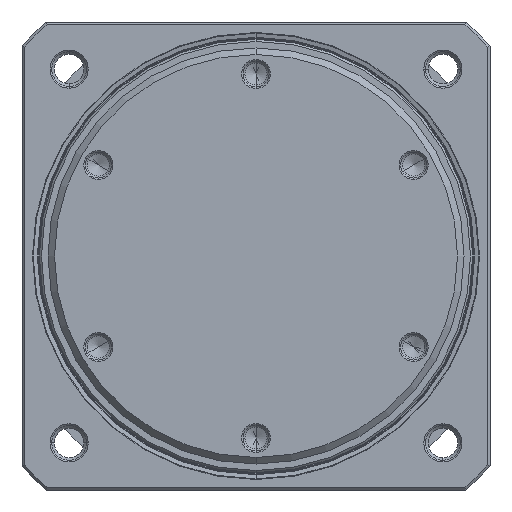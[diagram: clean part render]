
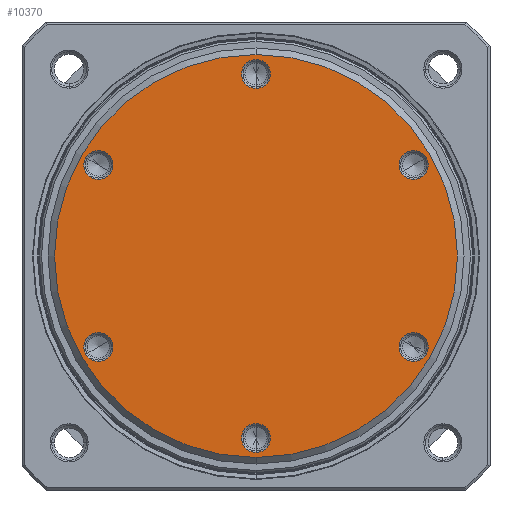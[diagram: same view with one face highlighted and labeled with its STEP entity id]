
A CAD part, left-side view. The second image highlights one B-rep face of the part: STEP entity #10370.
In plain terms, the highlighted planar face has unit normal (-1, 0, 0).
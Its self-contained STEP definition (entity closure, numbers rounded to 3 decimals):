
#9715=CARTESIAN_POINT('',(0.,0.,
0.));
#9716=DIRECTION('',(-1.,0.,0.));
#9717=DIRECTION('',(0.,1.,0.));
#9718=AXIS2_PLACEMENT_3D('',#9715,#9716,#9717);
#9720=CARTESIAN_POINT('',(0.,0.,
0.));
#9721=DIRECTION('',(-1.,0.,0.));
#9722=DIRECTION('',(0.,-1.,0.));
#9723=AXIS2_PLACEMENT_3D('',#9720,#9721,#9722);
#9725=CARTESIAN_POINT('',(0.,42.,0.));
#9726=DIRECTION('',(1.,0.,0.));
#9727=DIRECTION('',(0.,-1.,0.));
#9728=AXIS2_PLACEMENT_3D('',#9725,#9726,#9727);
#9730=CARTESIAN_POINT('',(0.,42.,0.));
#9731=DIRECTION('',(1.,0.,0.));
#9732=DIRECTION('',(0.,1.,0.));
#9733=AXIS2_PLACEMENT_3D('',#9730,#9731,#9732);
#9735=CARTESIAN_POINT('',(0.,21.,36.373));
#9736=DIRECTION('',(1.,0.,0.));
#9737=DIRECTION('',(0.,-0.5,-0.866));
#9738=AXIS2_PLACEMENT_3D('',#9735,#9736,#9737);
#9740=CARTESIAN_POINT('',(0.,21.,36.373));
#9741=DIRECTION('',(1.,0.,0.));
#9742=DIRECTION('',(0.,0.5,0.866));
#9743=AXIS2_PLACEMENT_3D('',#9740,#9741,#9742);
#9745=CARTESIAN_POINT('',(0.,-21.,36.373));
#9746=DIRECTION('',(1.,0.,0.));
#9747=DIRECTION('',(0.,0.5,-0.866));
#9748=AXIS2_PLACEMENT_3D('',#9745,#9746,#9747);
#9750=CARTESIAN_POINT('',(0.,-21.,36.373));
#9751=DIRECTION('',(1.,0.,0.));
#9752=DIRECTION('',(0.,-0.5,0.866));
#9753=AXIS2_PLACEMENT_3D('',#9750,#9751,#9752);
#9755=CARTESIAN_POINT('',(0.,-42.,0.));
#9756=DIRECTION('',(1.,0.,0.));
#9757=DIRECTION('',(0.,1.,0.));
#9758=AXIS2_PLACEMENT_3D('',#9755,#9756,#9757);
#9760=CARTESIAN_POINT('',(0.,-42.,0.));
#9761=DIRECTION('',(1.,0.,0.));
#9762=DIRECTION('',(0.,-1.,0.));
#9763=AXIS2_PLACEMENT_3D('',#9760,#9761,#9762);
#9765=CARTESIAN_POINT('',(0.,-21.,-36.373));
#9766=DIRECTION('',(1.,0.,0.));
#9767=DIRECTION('',(0.,0.5,0.866));
#9768=AXIS2_PLACEMENT_3D('',#9765,#9766,#9767);
#9770=CARTESIAN_POINT('',(0.,-21.,-36.373));
#9771=DIRECTION('',(1.,0.,0.));
#9772=DIRECTION('',(0.,-0.5,-0.866));
#9773=AXIS2_PLACEMENT_3D('',#9770,#9771,#9772);
#9775=CARTESIAN_POINT('',(0.,21.,-36.373));
#9776=DIRECTION('',(1.,0.,0.));
#9777=DIRECTION('',(0.,-0.5,0.866));
#9778=AXIS2_PLACEMENT_3D('',#9775,#9776,#9777);
#9780=CARTESIAN_POINT('',(0.,21.,-36.373));
#9781=DIRECTION('',(1.,0.,0.));
#9782=DIRECTION('',(0.,0.5,-0.866));
#9783=AXIS2_PLACEMENT_3D('',#9780,#9781,#9782);
#10089=CARTESIAN_POINT('',(0.,46.5,0.));
#10090=CARTESIAN_POINT('',(0.,-46.5,
0.));
#10091=VERTEX_POINT('',#10089);
#10092=VERTEX_POINT('',#10090);
#10103=CARTESIAN_POINT('',(0.,38.65,0.));
#10104=CARTESIAN_POINT('',(0.,45.35,0.));
#10105=VERTEX_POINT('',#10103);
#10106=VERTEX_POINT('',#10104);
#10157=CARTESIAN_POINT('',(0.,19.325,33.472));
#10158=CARTESIAN_POINT('',(0.,22.675,39.274));
#10159=VERTEX_POINT('',#10157);
#10160=VERTEX_POINT('',#10158);
#10165=CARTESIAN_POINT('',(0.,-19.325,33.472));
#10166=CARTESIAN_POINT('',(0.,-22.675,39.274));
#10167=VERTEX_POINT('',#10165);
#10168=VERTEX_POINT('',#10166);
#10173=CARTESIAN_POINT('',(0.,-38.65,0.));
#10174=CARTESIAN_POINT('',(0.,-45.35,0.));
#10175=VERTEX_POINT('',#10173);
#10176=VERTEX_POINT('',#10174);
#10181=CARTESIAN_POINT('',(0.,-19.325,-33.472));
#10182=CARTESIAN_POINT('',(0.,-22.675,-39.274));
#10183=VERTEX_POINT('',#10181);
#10184=VERTEX_POINT('',#10182);
#10189=CARTESIAN_POINT('',(0.,19.325,-33.472));
#10190=CARTESIAN_POINT('',(0.,22.675,-39.274));
#10191=VERTEX_POINT('',#10189);
#10192=VERTEX_POINT('',#10190);
#10324=CARTESIAN_POINT('',(0.,0.,0.));
#10325=DIRECTION('',(1.,0.,0.));
#10326=DIRECTION('',(0.,-1.,0.));
#10327=AXIS2_PLACEMENT_3D('',#10324,#10325,#10326);
#10328=PLANE('',#10327);
#10330=ORIENTED_EDGE('',*,*,#10329,.F.);
#10331=ORIENTED_EDGE('',*,*,#10314,.F.);
#10332=EDGE_LOOP('',(#10330,#10331));
#10333=FACE_OUTER_BOUND('',#10332,.F.);
#10335=ORIENTED_EDGE('',*,*,#10334,.F.);
#10337=ORIENTED_EDGE('',*,*,#10336,.F.);
#10338=EDGE_LOOP('',(#10335,#10337));
#10339=FACE_BOUND('',#10338,.F.);
#10341=ORIENTED_EDGE('',*,*,#10340,.F.);
#10343=ORIENTED_EDGE('',*,*,#10342,.F.);
#10344=EDGE_LOOP('',(#10341,#10343));
#10345=FACE_BOUND('',#10344,.F.);
#10347=ORIENTED_EDGE('',*,*,#10346,.F.);
#10349=ORIENTED_EDGE('',*,*,#10348,.F.);
#10350=EDGE_LOOP('',(#10347,#10349));
#10351=FACE_BOUND('',#10350,.F.);
#10353=ORIENTED_EDGE('',*,*,#10352,.F.);
#10355=ORIENTED_EDGE('',*,*,#10354,.F.);
#10356=EDGE_LOOP('',(#10353,#10355));
#10357=FACE_BOUND('',#10356,.F.);
#10359=ORIENTED_EDGE('',*,*,#10358,.F.);
#10361=ORIENTED_EDGE('',*,*,#10360,.F.);
#10362=EDGE_LOOP('',(#10359,#10361));
#10363=FACE_BOUND('',#10362,.F.);
#10365=ORIENTED_EDGE('',*,*,#10364,.F.);
#10367=ORIENTED_EDGE('',*,*,#10366,.F.);
#10368=EDGE_LOOP('',(#10365,#10367));
#10369=FACE_BOUND('',#10368,.F.);
#10370=ADVANCED_FACE('',(#10333,#10339,#10345,#10351,#10357,#10363,#10369),
#10328,.F.);
#9719=CIRCLE('',#9718,46.5);
#9724=CIRCLE('',#9723,46.5);
#9729=CIRCLE('',#9728,3.35);
#9734=CIRCLE('',#9733,3.35);
#9739=CIRCLE('',#9738,3.35);
#9744=CIRCLE('',#9743,3.35);
#9749=CIRCLE('',#9748,3.35);
#9754=CIRCLE('',#9753,3.35);
#9759=CIRCLE('',#9758,3.35);
#9764=CIRCLE('',#9763,3.35);
#9769=CIRCLE('',#9768,3.35);
#9774=CIRCLE('',#9773,3.35);
#9779=CIRCLE('',#9778,3.35);
#9784=CIRCLE('',#9783,3.35);
#10314=EDGE_CURVE('',#10092,#10091,#9724,.T.);
#10329=EDGE_CURVE('',#10091,#10092,#9719,.T.);
#10334=EDGE_CURVE('',#10105,#10106,#9729,.T.);
#10336=EDGE_CURVE('',#10106,#10105,#9734,.T.);
#10340=EDGE_CURVE('',#10159,#10160,#9739,.T.);
#10342=EDGE_CURVE('',#10160,#10159,#9744,.T.);
#10346=EDGE_CURVE('',#10167,#10168,#9749,.T.);
#10348=EDGE_CURVE('',#10168,#10167,#9754,.T.);
#10352=EDGE_CURVE('',#10175,#10176,#9759,.T.);
#10354=EDGE_CURVE('',#10176,#10175,#9764,.T.);
#10358=EDGE_CURVE('',#10183,#10184,#9769,.T.);
#10360=EDGE_CURVE('',#10184,#10183,#9774,.T.);
#10364=EDGE_CURVE('',#10191,#10192,#9779,.T.);
#10366=EDGE_CURVE('',#10192,#10191,#9784,.T.);
